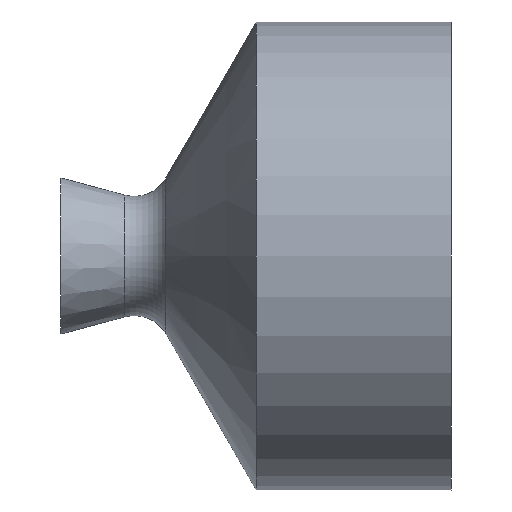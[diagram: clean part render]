
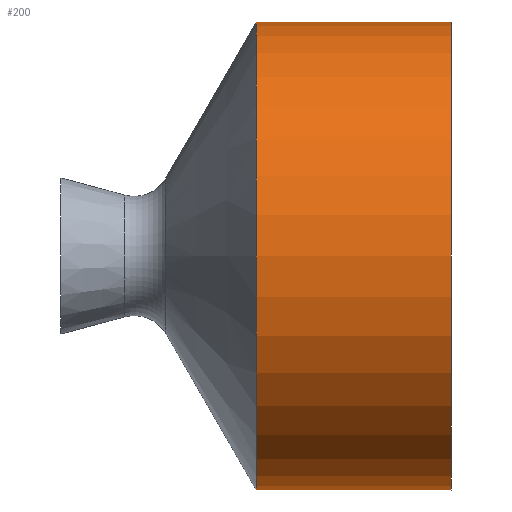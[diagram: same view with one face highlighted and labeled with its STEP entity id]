
A CAD part, front view. The second image highlights one B-rep face of the part: STEP entity #200.
In plain terms, the highlighted cylindrical face has radius 6 mm (diameter 12 mm), a full revolution.
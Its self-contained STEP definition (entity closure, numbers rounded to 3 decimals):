
#5 = DIRECTION ( 'NONE',  ( 0., 1., 0. ) ) ;
#45 = DIRECTION ( 'NONE',  ( 1., 0., 0. ) ) ;
#77 = DIRECTION ( 'NONE',  ( 0., 1., 0. ) ) ;
#84 = AXIS2_PLACEMENT_3D ( 'NONE', #347, #123, #77 ) ;
#94 = CIRCLE ( 'NONE', #84, 6. ) ;
#122 = EDGE_CURVE ( 'NONE', #397, #397, #94, .T. ) ;
#123 = DIRECTION ( 'NONE',  ( -1., 0., 0. ) ) ;
#157 = EDGE_LOOP ( 'NONE', ( #307 ) ) ;
#181 = AXIS2_PLACEMENT_3D ( 'NONE', #203, #45, #5 ) ;
#200 = ADVANCED_FACE ( 'NONE', ( #444, #223 ), #229, .T. ) ;
#203 = CARTESIAN_POINT ( 'NONE',  ( -5.1, 0., 0. ) ) ;
#207 = CIRCLE ( 'NONE', #475, 6. ) ;
#223 = FACE_OUTER_BOUND ( 'NONE', #257, .T. ) ;
#224 = ORIENTED_EDGE ( 'NONE', *, *, #122, .T. ) ;
#229 = CYLINDRICAL_SURFACE ( 'NONE', #181, 6. ) ;
#257 = EDGE_LOOP ( 'NONE', ( #224 ) ) ;
#279 = DIRECTION ( 'NONE',  ( -1., 0., 0. ) ) ;
#307 = ORIENTED_EDGE ( 'NONE', *, *, #366, .F. ) ;
#317 = CARTESIAN_POINT ( 'NONE',  ( 0., 6., 0. ) ) ;
#345 = CARTESIAN_POINT ( 'NONE',  ( -5., 0., 0. ) ) ;
#347 = CARTESIAN_POINT ( 'NONE',  ( 0., 0., 0. ) ) ;
#354 = CARTESIAN_POINT ( 'NONE',  ( -5., 6., 0. ) ) ;
#366 = EDGE_CURVE ( 'NONE', #481, #481, #207, .T. ) ;
#397 = VERTEX_POINT ( 'NONE', #317 ) ;
#444 = FACE_OUTER_BOUND ( 'NONE', #157, .T. ) ;
#449 = DIRECTION ( 'NONE',  ( 0., 1., 0. ) ) ;
#475 = AXIS2_PLACEMENT_3D ( 'NONE', #345, #279, #449 ) ;
#481 = VERTEX_POINT ( 'NONE', #354 ) ;
